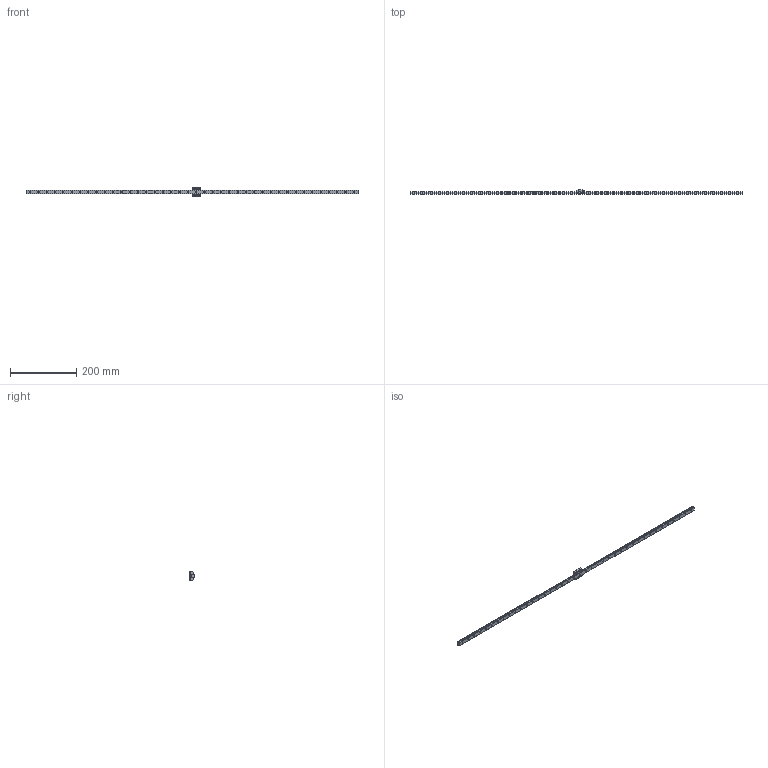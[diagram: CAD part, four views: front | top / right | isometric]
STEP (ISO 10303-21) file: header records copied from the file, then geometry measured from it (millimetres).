
FILE_DESCRIPTION(/* description */ ('STEP AP214'),/* implementation_level */ '2;1');
FILE_NAME(/* name */ 'SRS12SSS-1000LM_G12-5_0_500_0_0_0_1',/* time_stamp */ '2024-01-22T14:05:09+01:00',/* author */ ('License CC BY-ND 4.0'),/* organization */ ('CADENAS'),/* preprocessor_version */ 'ST-DEVELOPER v19.3',/* originating_system */ 'PARTsolutions',/* authorisation */ ' ');
FILE_SCHEMA (('AUTOMOTIVE_DESIGN {1 0 10303 214 3 1 1}'));
Length unit declared in the file: millimetre
Products named in the file (3): SRS12SSS-1000LM_G12-5_0_500_0_0_0_1; SRS12S100012.5 Track; SRS12SSS1 Slider
Assembly tree (2 placements, depth 2):
  SRS12SSS-1000LM_G12-5_0_500_0_0_0_1
    SRS12S100012.5 Track
    SRS12SSS1 Slider
Bounding box: 1000 x 13 x 27 mm (x, y, z)
Volume: 86425.8 mm3; surface area: 45889.5 mm2
Topology: 2 solids, 2 shells, 246 faces, 578 edges, 378 vertices
Faces by surface type: plane 131, cylinder 111, cone 4
Full cylindrical faces by diameter (mm): 2 x2, 2.459 x2, 3.5 x40, 6 x40
Entity records: 6861 total; most frequent: DIRECTION 1212, CARTESIAN_POINT 1111, ORIENTED_EDGE 972, EDGE_CURVE 486, AXIS2_PLACEMENT_3D 477, FACE_BOUND 458, EDGE_LOOP 456, VERTEX_POINT 376
